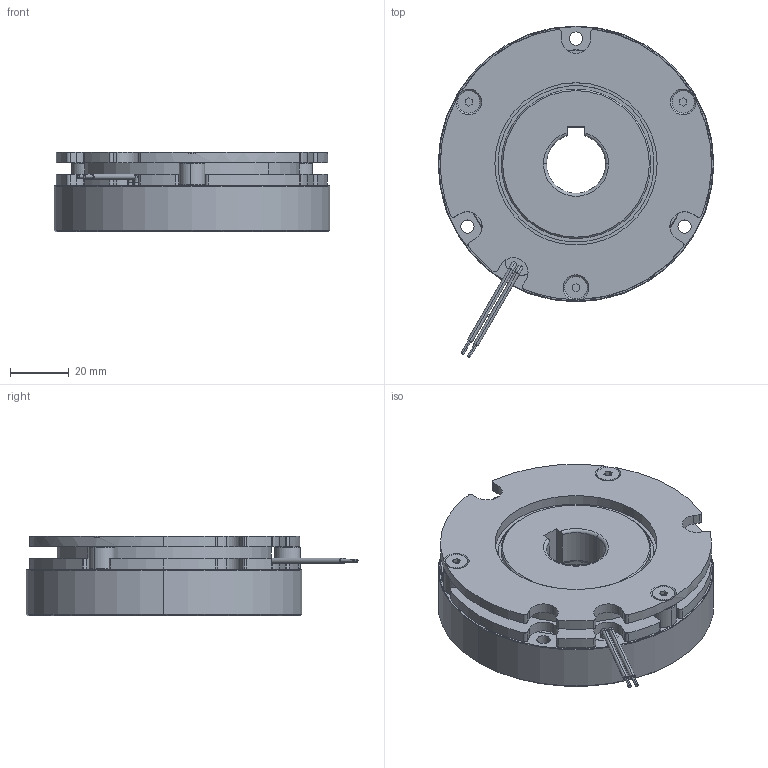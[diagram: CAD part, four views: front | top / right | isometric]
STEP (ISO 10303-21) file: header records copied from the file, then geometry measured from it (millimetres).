
FILE_DESCRIPTION (( 'STEP AP214' ), '1' );
FILE_NAME ('ÌÞÚ°·_BXR-08-20_A.STEP', '2017-08-01T08:21:47', ( 'MIKI' ), ( '' ), 'SwSTEP 2.0', 'SolidWorks 2012', '' );
FILE_SCHEMA (( 'AUTOMOTIVE_DESIGN' ));
Length unit declared in the file: millimetre
Products named in the file (1): 枌痚愷BXR-08-20_A
Bounding box: 93.5 x 112.56 x 27 mm (x, y, z)
Volume: 133384.1 mm3; surface area: 44830.4 mm2
Topology: 1 solids, 4 shells, 312 faces, 773 edges, 491 vertices
Faces by surface type: cylinder 160, plane 85, cone 53, torus 14
Entity records: 12948 total; most frequent: DIRECTION 1814, CARTESIAN_POINT 1630, ORIENTED_EDGE 1546, EDGE_CURVE 773, AXIS2_PLACEMENT_3D 737, VERTEX_POINT 491, CIRCLE 424, EDGE_LOOP 372
